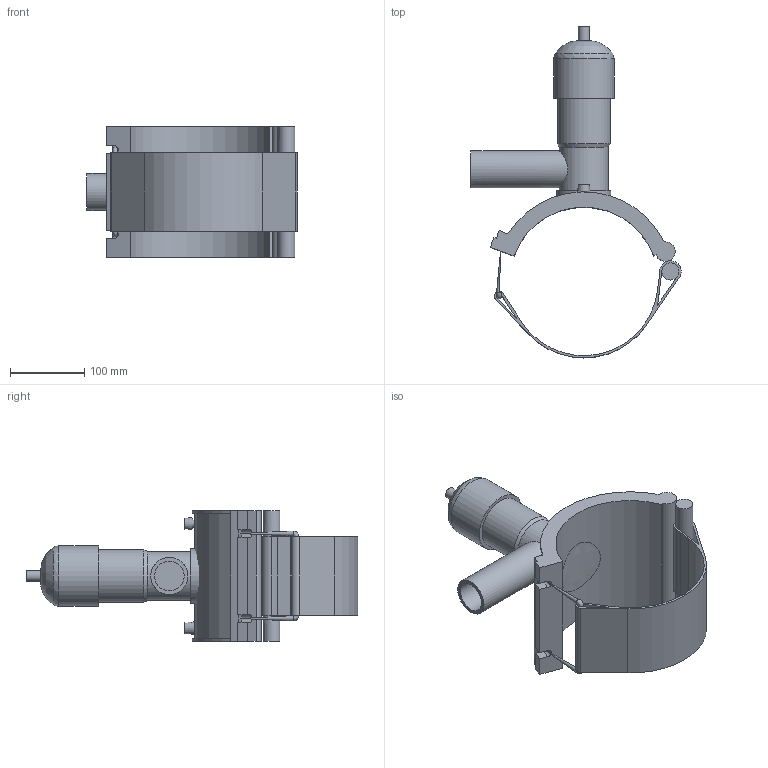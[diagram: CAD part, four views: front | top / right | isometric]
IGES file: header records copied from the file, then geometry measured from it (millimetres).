
Global section: file name: 495404200050.ipt; native system: Autodesk Inventor 2015; preprocessor: unknown; author: KIM; date: 20171106.094308; units: millimetre
Bounding box: 282.95 x 447 x 176 mm (x, y, z)
Volume: 2139356.3 mm3; surface area: 343094.3 mm2
Topology: 3 solids, 4 shells, 81 faces, 196 edges, 130 vertices
Faces by surface type: plane 45, cylinder 20, revolution 13, cone 3
Full cylindrical faces by diameter (mm): 4 x2, 6.8 x2, 14.64 x1, 22.769 x1, 50 x1, 65.88 x1, 70.76 x1, 73.2 x1, 81.333 x1
